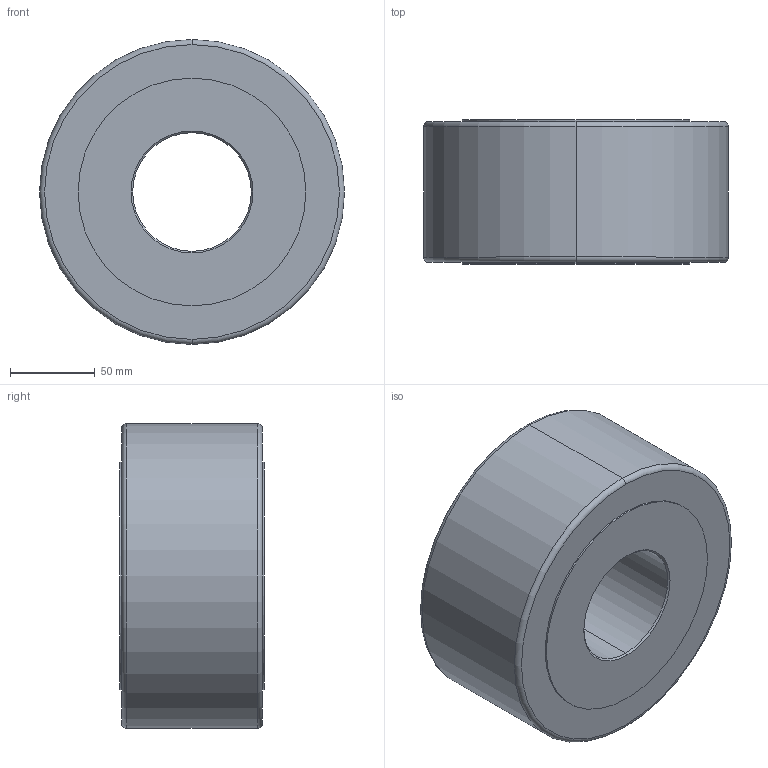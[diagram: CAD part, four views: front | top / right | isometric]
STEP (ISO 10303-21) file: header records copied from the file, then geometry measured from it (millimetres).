
FILE_DESCRIPTION (( 'STEP AP214' ), '1' );
FILE_NAME ('3DRSU70-180.STEP', '2013-12-19T09:38:27', ( 'usuario' ), ( 'Hewlett-Packard Company' ), 'SwSTEP 2.0', 'SolidWorks 2017', '' );
FILE_SCHEMA (( 'AUTOMOTIVE_DESIGN' ));
Length unit declared in the file: millimetre
Products named in the file (1): 3DRSU70-180
Bounding box: 180 x 85 x 180 mm (x, y, z)
Volume: 1810988.8 mm3; surface area: 107950.4 mm2
Topology: 1 solids, 1 shells, 20 faces, 40 edges, 24 vertices
Faces by surface type: cylinder 8, torus 4, cone 4, plane 4
Entity records: 566 total; most frequent: DIRECTION 110, CARTESIAN_POINT 85, ORIENTED_EDGE 80, AXIS2_PLACEMENT_3D 49, EDGE_CURVE 40, CIRCLE 28, EDGE_LOOP 24, VERTEX_POINT 24
